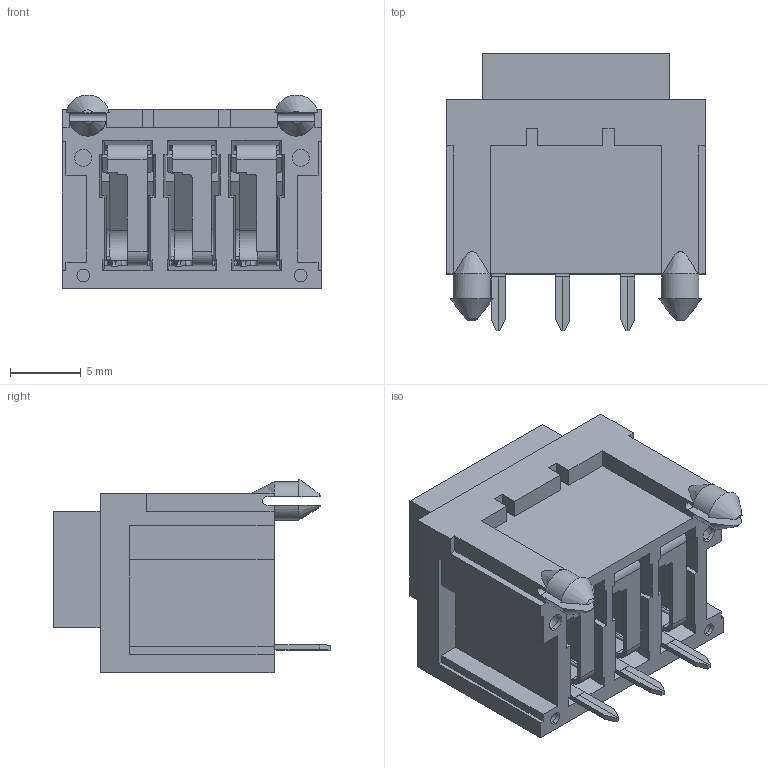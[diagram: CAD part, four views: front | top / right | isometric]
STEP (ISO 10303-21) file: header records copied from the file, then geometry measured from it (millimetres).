
FILE_DESCRIPTION((''),'2;1');
FILE_NAME('TN0319000000G','2021-05-27T',('changsheng.chen'),(''),'CREO PARAMETRIC BY PTC INC, 2016260','CREO PARAMETRIC BY PTC INC, 2016260','');
FILE_SCHEMA(('CONFIG_CONTROL_DESIGN'));
Length unit declared in the file: millimetre
Products named in the file (1): TN0319000000G
Bounding box: 18.29 x 19.58 x 13.69 mm (x, y, z)
Volume: 1884.9 mm3; surface area: 3014.2 mm2
Topology: 1 solids, 1 shells, 511 faces, 1521 edges, 1002 vertices
Faces by surface type: plane 418, cylinder 68, cone 14, bspline 11
Entity records: 17508 total; most frequent: CARTESIAN_POINT 3622, ORIENTED_EDGE 3042, DIRECTION 2716, EDGE_CURVE 1521, VECTOR 1238, LINE 1238, VERTEX_POINT 1002, AXIS2_PLACEMENT_3D 739
